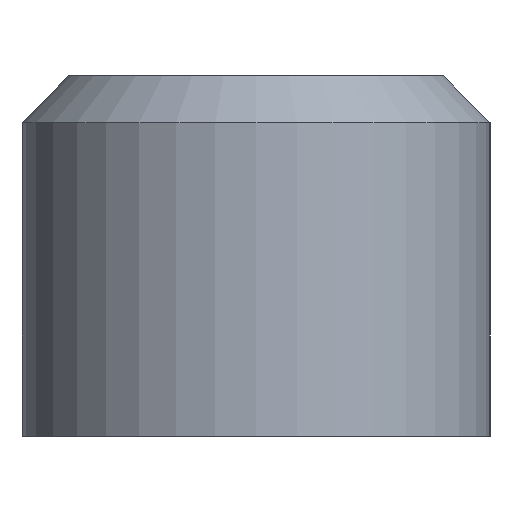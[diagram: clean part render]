
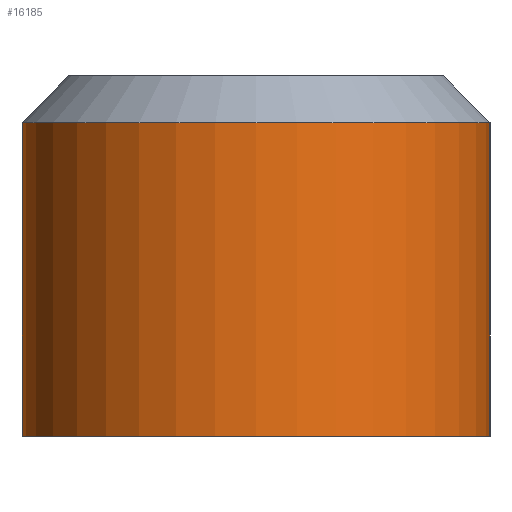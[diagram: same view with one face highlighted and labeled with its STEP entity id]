
A CAD part, front view. The second image highlights one B-rep face of the part: STEP entity #16185.
In plain terms, the highlighted cylindrical face has radius 5 mm (diameter 10 mm), a partial arc.
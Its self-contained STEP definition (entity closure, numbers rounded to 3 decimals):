
#15185=CARTESIAN_POINT('',(5.,-173.0,0.));
#15186=VERTEX_POINT('',#15185);
#15193=CARTESIAN_POINT('',(-5.,-173.0,0.));
#15194=VERTEX_POINT('',#15193);
#15195=CARTESIAN_POINT('',(0.,-173.0,0.));
#15196=DIRECTION('',(0.0,0.0,1.0));
#15197=DIRECTION('',(-1.0,0.0,0.0));
#15198=AXIS2_PLACEMENT_3D('',#15195,#15196,#15197);
#15199=CIRCLE('',#15198,5.);
#15200=EDGE_CURVE('',#15194,#15186,#15199,.T.);
#16012=CARTESIAN_POINT('',(5.,-173.0,6.7));
#16013=VERTEX_POINT('',#16012);
#16020=CARTESIAN_POINT('',(5.,-173.0,0.));
#16021=DIRECTION('',(0.0,0.0,1.0));
#16022=VECTOR('',#16021,6.7);
#16023=LINE('',#16020,#16022);
#16024=EDGE_CURVE('',#15186,#16013,#16023,.T.);
#16096=CARTESIAN_POINT('',(-5.0,-173.0,6.7));
#16097=VERTEX_POINT('',#16096);
#16104=CARTESIAN_POINT('',(0.,-173.0,6.7));
#16105=DIRECTION('',(0.0,0.0,1.0));
#16106=DIRECTION('',(-1.0,0.0,0.0));
#16107=AXIS2_PLACEMENT_3D('',#16104,#16105,#16106);
#16108=CIRCLE('',#16107,5.);
#16109=EDGE_CURVE('',#16097,#16013,#16108,.T.);
#16141=CARTESIAN_POINT('',(-5.,-173.0,0.));
#16142=DIRECTION('',(0.0,0.0,1.0));
#16143=VECTOR('',#16142,6.7);
#16144=LINE('',#16141,#16143);
#16145=EDGE_CURVE('',#15194,#16097,#16144,.T.);
#16174=CARTESIAN_POINT('',(0.,-173.0,0.));
#16175=DIRECTION('',(0.,0.,1.0));
#16176=DIRECTION('',(-1.0,0.0,0.0));
#16177=AXIS2_PLACEMENT_3D('',#16174,#16175,#16176);
#16178=CYLINDRICAL_SURFACE('',#16177,5.);
#16179=ORIENTED_EDGE('',*,*,#16109,.F.);
#16180=ORIENTED_EDGE('',*,*,#16145,.F.);
#16181=ORIENTED_EDGE('',*,*,#15200,.T.);
#16182=ORIENTED_EDGE('',*,*,#16024,.T.);
#16183=EDGE_LOOP('',(#16179,#16180,#16181,#16182));
#16184=FACE_OUTER_BOUND('',#16183,.T.);
#16185=ADVANCED_FACE('',(#16184),#16178,.T.);
